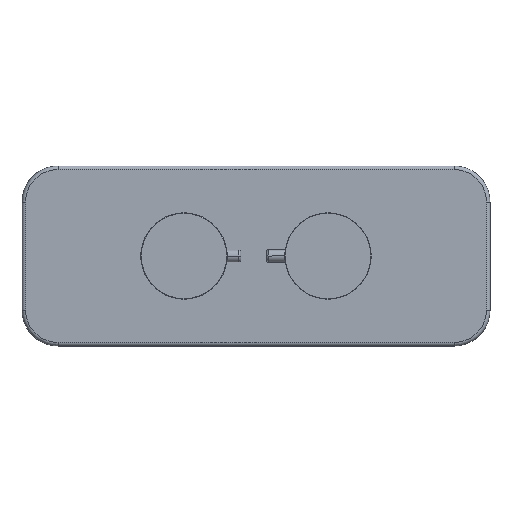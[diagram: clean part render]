
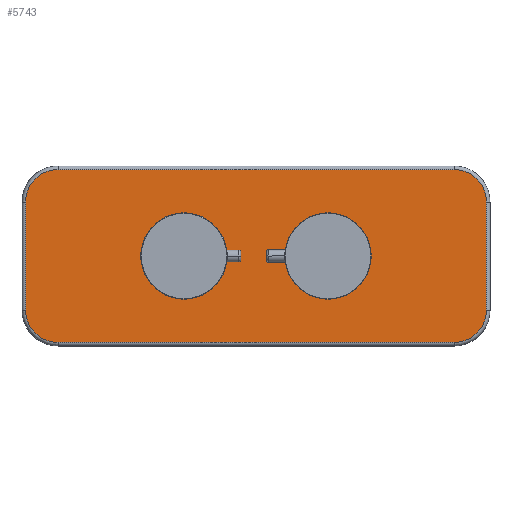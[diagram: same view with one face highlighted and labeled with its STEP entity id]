
A CAD part, left-side view. The second image highlights one B-rep face of the part: STEP entity #5743.
In plain terms, the highlighted planar face has unit normal (-1, 0, 0).
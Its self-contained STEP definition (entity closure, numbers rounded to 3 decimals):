
#2378=CARTESIAN_POINT('',(-28.,0.,0.));
#2379=DIRECTION('',(1.,0.,0.));
#2380=DIRECTION('',(0.,0.,-1.));
#2381=AXIS2_PLACEMENT_3D('',#2378,#2379,#2380);
#2392=CARTESIAN_POINT('',(-28.,0.,0.));
#2393=DIRECTION('',(1.,0.,0.));
#2394=DIRECTION('',(0.,0.,1.));
#2395=AXIS2_PLACEMENT_3D('',#2392,#2393,#2394);
#2397=DIRECTION('',(0.,0.,1.));
#2398=VECTOR('',#2397,60.);
#2399=CARTESIAN_POINT('',(-28.,-168.,-30.));
#2400=LINE('',#2399,#2398);
#2401=CARTESIAN_POINT('',(-28.,-150.,-30.));
#2402=DIRECTION('',(-1.,0.,0.));
#2403=DIRECTION('',(0.,0.,-1.));
#2404=AXIS2_PLACEMENT_3D('',#2401,#2402,#2403);
#2406=DIRECTION('',(0.,-1.,0.));
#2407=VECTOR('',#2406,220.);
#2408=CARTESIAN_POINT('',(-28.,70.,-48.));
#2409=LINE('',#2408,#2407);
#2410=CARTESIAN_POINT('',(-28.,70.,-30.));
#2411=DIRECTION('',(-1.,0.,0.));
#2412=DIRECTION('',(0.,1.,0.));
#2413=AXIS2_PLACEMENT_3D('',#2410,#2411,#2412);
#2415=DIRECTION('',(0.,0.,-1.));
#2416=VECTOR('',#2415,60.);
#2417=CARTESIAN_POINT('',(-28.,88.,30.));
#2418=LINE('',#2417,#2416);
#2419=CARTESIAN_POINT('',(-28.,70.,30.));
#2420=DIRECTION('',(-1.,0.,0.));
#2421=DIRECTION('',(0.,0.,1.));
#2422=AXIS2_PLACEMENT_3D('',#2419,#2420,#2421);
#2424=DIRECTION('',(0.,1.,0.));
#2425=VECTOR('',#2424,220.);
#2426=CARTESIAN_POINT('',(-28.,-150.,48.));
#2427=LINE('',#2426,#2425);
#2428=CARTESIAN_POINT('',(-28.,-150.,30.));
#2429=DIRECTION('',(-1.,0.,0.));
#2430=DIRECTION('',(0.,-1.,0.));
#2431=AXIS2_PLACEMENT_3D('',#2428,#2429,#2430);
#2577=CARTESIAN_POINT('',(-28.,-80.,0.));
#2578=DIRECTION('',(-1.,0.,0.));
#2579=DIRECTION('',(0.,0.,1.));
#2580=AXIS2_PLACEMENT_3D('',#2577,#2578,#2579);
#2587=CARTESIAN_POINT('',(-28.,-80.,0.));
#2588=DIRECTION('',(-1.,0.,0.));
#2589=DIRECTION('',(0.,0.,-1.));
#2590=AXIS2_PLACEMENT_3D('',#2587,#2588,#2589);
#2889=CARTESIAN_POINT('',(-28.,-168.,-30.));
#2890=CARTESIAN_POINT('',(-28.,-168.,30.));
#2891=VERTEX_POINT('',#2889);
#2892=VERTEX_POINT('',#2890);
#2897=CARTESIAN_POINT('',(-28.,-150.,48.));
#2898=VERTEX_POINT('',#2897);
#2901=CARTESIAN_POINT('',(-28.,70.,48.));
#2902=VERTEX_POINT('',#2901);
#2905=CARTESIAN_POINT('',(-28.,88.,30.));
#2906=VERTEX_POINT('',#2905);
#2909=CARTESIAN_POINT('',(-28.,88.,-30.));
#2910=VERTEX_POINT('',#2909);
#2913=CARTESIAN_POINT('',(-28.,70.,-48.));
#2914=VERTEX_POINT('',#2913);
#2917=CARTESIAN_POINT('',(-28.,-150.,-48.));
#2918=VERTEX_POINT('',#2917);
#3368=CARTESIAN_POINT('',(-28.,0.,-20.35));
#3369=CARTESIAN_POINT('',(-28.,0.,20.35));
#3370=VERTEX_POINT('',#3368);
#3371=VERTEX_POINT('',#3369);
#3372=CARTESIAN_POINT('',(-28.,-80.,20.35));
#3373=CARTESIAN_POINT('',(-28.,-80.,-20.35));
#3374=VERTEX_POINT('',#3372);
#3375=VERTEX_POINT('',#3373);
#5710=CARTESIAN_POINT('',(-28.,-40.,0.));
#5711=DIRECTION('',(-1.,0.,0.));
#5712=DIRECTION('',(0.,1.,0.));
#5713=AXIS2_PLACEMENT_3D('',#5710,#5711,#5712);
#5714=PLANE('',#5713);
#5716=ORIENTED_EDGE('',*,*,#5715,.F.);
#5718=ORIENTED_EDGE('',*,*,#5717,.F.);
#5720=ORIENTED_EDGE('',*,*,#5719,.F.);
#5722=ORIENTED_EDGE('',*,*,#5721,.F.);
#5724=ORIENTED_EDGE('',*,*,#5723,.F.);
#5726=ORIENTED_EDGE('',*,*,#5725,.F.);
#5728=ORIENTED_EDGE('',*,*,#5727,.F.);
#5730=ORIENTED_EDGE('',*,*,#5729,.F.);
#5731=EDGE_LOOP('',(#5716,#5718,#5720,#5722,#5724,#5726,#5728,#5730));
#5732=FACE_OUTER_BOUND('',#5731,.F.);
#5733=ORIENTED_EDGE('',*,*,#5690,.F.);
#5734=ORIENTED_EDGE('',*,*,#5704,.F.);
#5735=EDGE_LOOP('',(#5733,#5734));
#5736=FACE_BOUND('',#5735,.F.);
#5738=ORIENTED_EDGE('',*,*,#5737,.T.);
#5740=ORIENTED_EDGE('',*,*,#5739,.T.);
#5741=EDGE_LOOP('',(#5738,#5740));
#5742=FACE_BOUND('',#5741,.F.);
#5743=ADVANCED_FACE('',(#5732,#5736,#5742),#5714,.T.);
#2382=CIRCLE('',#2381,20.35);
#2396=CIRCLE('',#2395,20.35);
#2405=CIRCLE('',#2404,18.);
#2414=CIRCLE('',#2413,18.);
#2423=CIRCLE('',#2422,18.);
#2432=CIRCLE('',#2431,18.);
#2581=CIRCLE('',#2580,20.35);
#2591=CIRCLE('',#2590,20.35);
#5690=EDGE_CURVE('',#3370,#3371,#2382,.T.);
#5704=EDGE_CURVE('',#3371,#3370,#2396,.T.);
#5715=EDGE_CURVE('',#2891,#2892,#2400,.T.);
#5717=EDGE_CURVE('',#2918,#2891,#2405,.T.);
#5719=EDGE_CURVE('',#2914,#2918,#2409,.T.);
#5721=EDGE_CURVE('',#2910,#2914,#2414,.T.);
#5723=EDGE_CURVE('',#2906,#2910,#2418,.T.);
#5725=EDGE_CURVE('',#2902,#2906,#2423,.T.);
#5727=EDGE_CURVE('',#2898,#2902,#2427,.T.);
#5729=EDGE_CURVE('',#2892,#2898,#2432,.T.);
#5737=EDGE_CURVE('',#3374,#3375,#2581,.T.);
#5739=EDGE_CURVE('',#3375,#3374,#2591,.T.);
